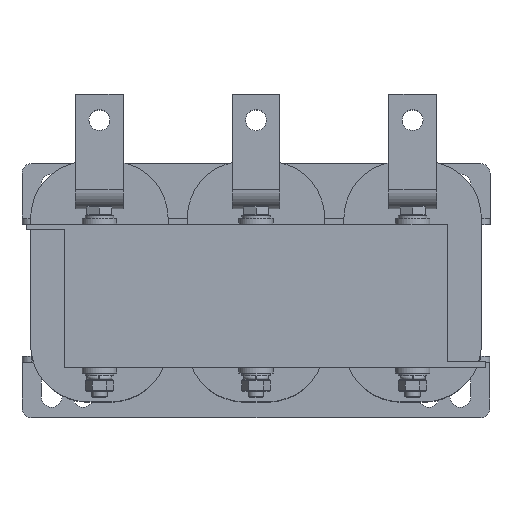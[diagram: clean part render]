
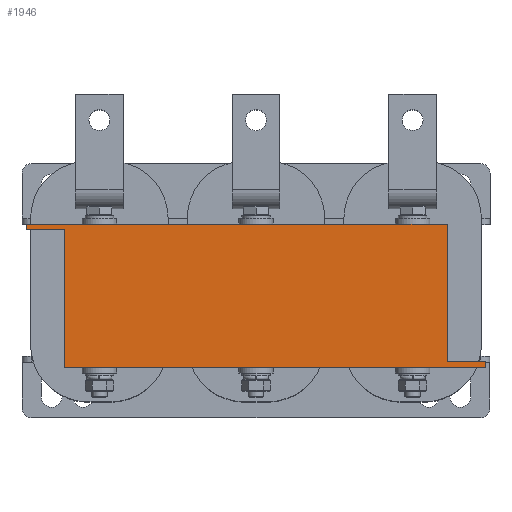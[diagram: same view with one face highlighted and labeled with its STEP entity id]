
A CAD part, top view. The second image highlights one B-rep face of the part: STEP entity #1946.
In plain terms, the highlighted planar face has unit normal (0, 0, 1).
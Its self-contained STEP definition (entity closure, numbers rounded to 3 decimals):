
#1946=ADVANCED_FACE('',(#2588),#2590,.T.);
#2588=FACE_BOUND('',#2589,.T.);
#2589=EDGE_LOOP('',(#3550,#3551,#3552,#3553,#3554,#3555,#3556,#3557));
#2590=PLANE('',#2591);
#2591=AXIS2_PLACEMENT_3D('',#2592,#2593,#2594);
#2592=CARTESIAN_POINT('',(0.,0.,40.));
#2593=DIRECTION('',(0.,0.,1.));
#2594=DIRECTION('',(-1.,0.,0.));
#3550=ORIENTED_EDGE('',*,*,#4032,.T.);
#3551=ORIENTED_EDGE('',*,*,#4051,.T.);
#3552=ORIENTED_EDGE('',*,*,#4021,.T.);
#3553=ORIENTED_EDGE('',*,*,#4052,.T.);
#3554=ORIENTED_EDGE('',*,*,#4013,.T.);
#3555=ORIENTED_EDGE('',*,*,#4053,.T.);
#3556=ORIENTED_EDGE('',*,*,#4002,.T.);
#3557=ORIENTED_EDGE('',*,*,#4050,.T.);
#4002=EDGE_CURVE('',#4428,#4426,#4429,.T.);
#4013=EDGE_CURVE('',#4450,#4448,#4451,.T.);
#4021=EDGE_CURVE('',#4466,#4464,#4467,.T.);
#4032=EDGE_CURVE('',#4488,#4486,#4489,.T.);
#4050=EDGE_CURVE('',#4426,#4488,#4511,.T.);
#4051=EDGE_CURVE('',#4486,#4466,#4512,.T.);
#4052=EDGE_CURVE('',#4464,#4450,#4513,.T.);
#4053=EDGE_CURVE('',#4448,#4428,#4514,.T.);
#4426=VERTEX_POINT('',#5290);
#4428=VERTEX_POINT('',#5294);
#4429=LINE('',#5295,#5296);
#4448=VERTEX_POINT('',#5339);
#4450=VERTEX_POINT('',#5343);
#4451=LINE('',#5344,#5345);
#4464=VERTEX_POINT('',#5373);
#4466=VERTEX_POINT('',#5377);
#4467=LINE('',#5378,#5379);
#4486=VERTEX_POINT('',#5422);
#4488=VERTEX_POINT('',#5426);
#4489=LINE('',#5427,#5428);
#4511=LINE('',#5487,#5488);
#4512=LINE('',#5490,#5491);
#4513=LINE('',#5493,#5494);
#4514=LINE('',#5496,#5497);
#5290=CARTESIAN_POINT('',(-120.,37.5,40.));
#5294=CARTESIAN_POINT('',(100.,37.5,40.));
#5295=CARTESIAN_POINT('',(100.,37.5,40.));
#5296=VECTOR('',#5297,1.);
#5297=DIRECTION('',(-1.,0.,0.));
#5339=CARTESIAN_POINT('',(100.,-34.5,40.));
#5343=CARTESIAN_POINT('',(120.,-34.5,40.));
#5344=CARTESIAN_POINT('',(120.,-34.5,40.));
#5345=VECTOR('',#5346,1.);
#5346=DIRECTION('',(-1.,0.,0.));
#5373=CARTESIAN_POINT('',(120.,-37.5,40.));
#5377=CARTESIAN_POINT('',(-100.,-37.5,40.));
#5378=CARTESIAN_POINT('',(-100.,-37.5,40.));
#5379=VECTOR('',#5380,1.);
#5380=DIRECTION('',(1.,0.,0.));
#5422=CARTESIAN_POINT('',(-100.,34.5,40.));
#5426=CARTESIAN_POINT('',(-120.,34.5,40.));
#5427=CARTESIAN_POINT('',(-120.,34.5,40.));
#5428=VECTOR('',#5429,1.);
#5429=DIRECTION('',(1.,0.,0.));
#5487=CARTESIAN_POINT('',(-120.,37.5,40.));
#5488=VECTOR('',#5489,1.);
#5489=DIRECTION('',(0.,-1.,0.));
#5490=CARTESIAN_POINT('',(-100.,34.5,40.));
#5491=VECTOR('',#5492,1.);
#5492=DIRECTION('',(0.,-1.,0.));
#5493=CARTESIAN_POINT('',(120.,-37.5,40.));
#5494=VECTOR('',#5495,1.);
#5495=DIRECTION('',(0.,1.,0.));
#5496=CARTESIAN_POINT('',(100.,-34.5,40.));
#5497=VECTOR('',#5498,1.);
#5498=DIRECTION('',(0.,1.,0.));
